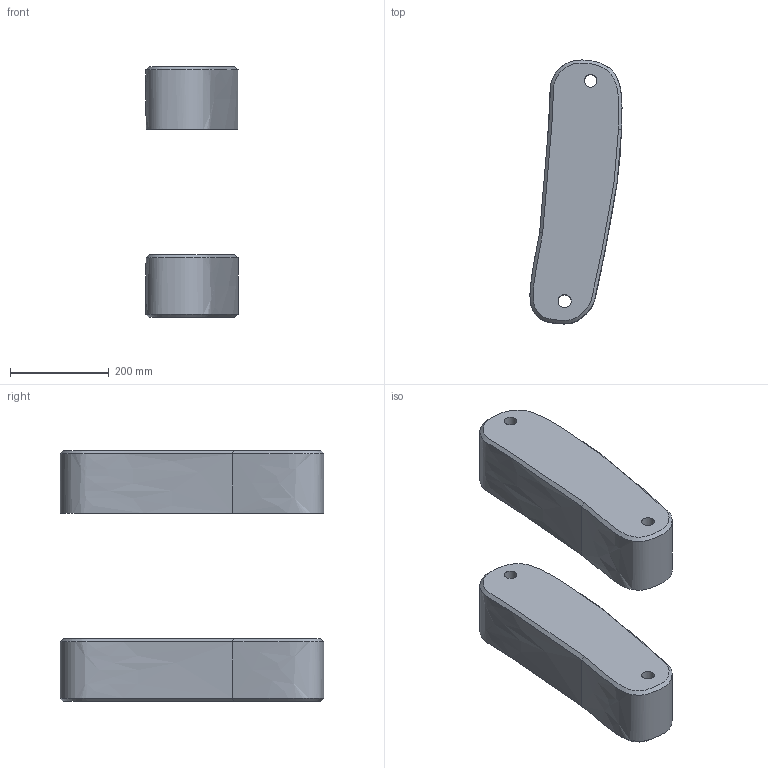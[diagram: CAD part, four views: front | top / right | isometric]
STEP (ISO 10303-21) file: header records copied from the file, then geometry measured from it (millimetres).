
FILE_DESCRIPTION(/* description */ ('Alibre Inc.'),/* implementation_level */ '2;1');
FILE_NAME(/* name */ 'export0',/* time_stamp */ '2007-03-23T19:17:46-07:00',/* author */ (''),/* organization */ (''),/* preprocessor_version */ 'ST-DEVELOPER v10',/* originating_system */ 'Alibre',/* authorisation */ '');
FILE_SCHEMA (('ALIBRE_SCHEMA','CONFIG_CONTROL_DESIGN'));
Length unit declared in the file: centimetre
Products named in the file (1): ID_1
Bounding box: 186.36 x 533.95 x 508 mm (x, y, z)
Volume: 18435469.8 mm3; surface area: 629638.5 mm2
Topology: 2 solids, 2 shells, 18 faces, 40 edges, 26 vertices
Faces by surface type: bspline 10, plane 4, cylinder 4
Full cylindrical faces by diameter (mm): 25.961 x2, 26.321 x2
Entity records: 3834 total; most frequent: CARTESIAN_POINT 2885, PERSISTANTTOPOLOGYATTRIBUTE 108, ORIENTED_EDGE 64, DIRECTION 55, CONSTRAINTPAIRUV 47, REFERENCEPOINTUV 41, EDGE_CURVE 32, EDGE_LOOP 30
